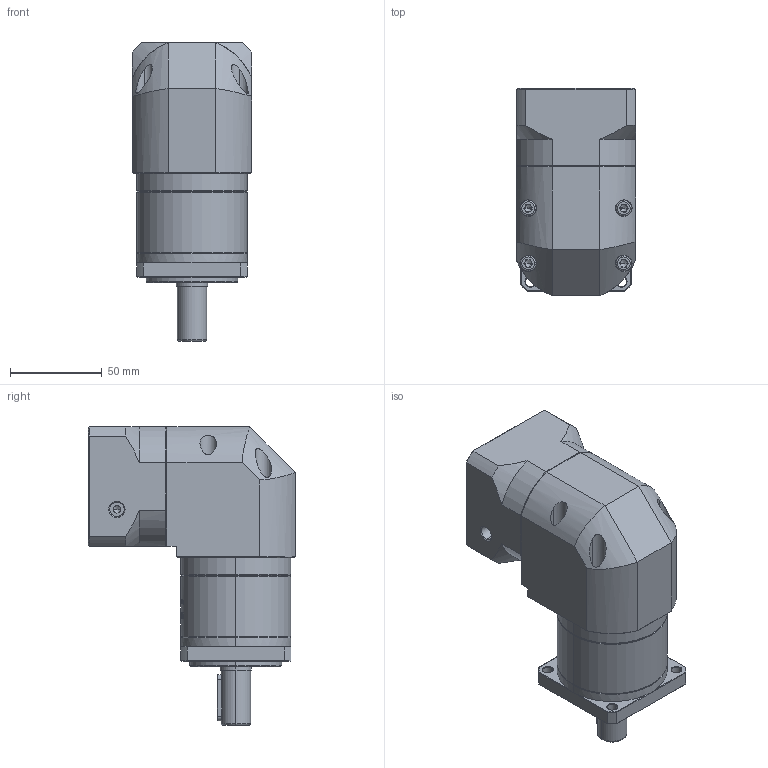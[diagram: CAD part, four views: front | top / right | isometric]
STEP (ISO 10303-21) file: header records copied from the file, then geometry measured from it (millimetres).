
FILE_DESCRIPTION (( 'STEP AP214' ), '1' );
FILE_NAME ('ZFR060-D16-L1-P2-14-60-75-M5.step', '2023-08-17T03:33:53', ( '' ), ( '' ), 'SwSTEP 2.0', 'SolidWorks 2016', '' );
FILE_SCHEMA (( 'AUTOMOTIVE_DESIGN' ));
Length unit declared in the file: millimetre
Products named in the file (1): ZFR060-D16-L1-P2-14-60-75-M5
Bounding box: 65 x 112.7 x 162.5 mm (x, y, z)
Volume: 552962.6 mm3; surface area: 79981.6 mm2
Topology: 5 solids, 6 shells, 1922 faces, 5153 edges, 3328 vertices
Faces by surface type: plane 847, cylinder 407, bspline 354, cone 290, torus 24
Entity records: 106626 total; most frequent: CARTESIAN_POINT 41558, ORIENTED_EDGE 10262, DIRECTION 7684, EDGE_CURVE 5131, VERTEX_POINT 3328, VECTOR 2614, LINE 2614, AXIS2_PLACEMENT_3D 2535
